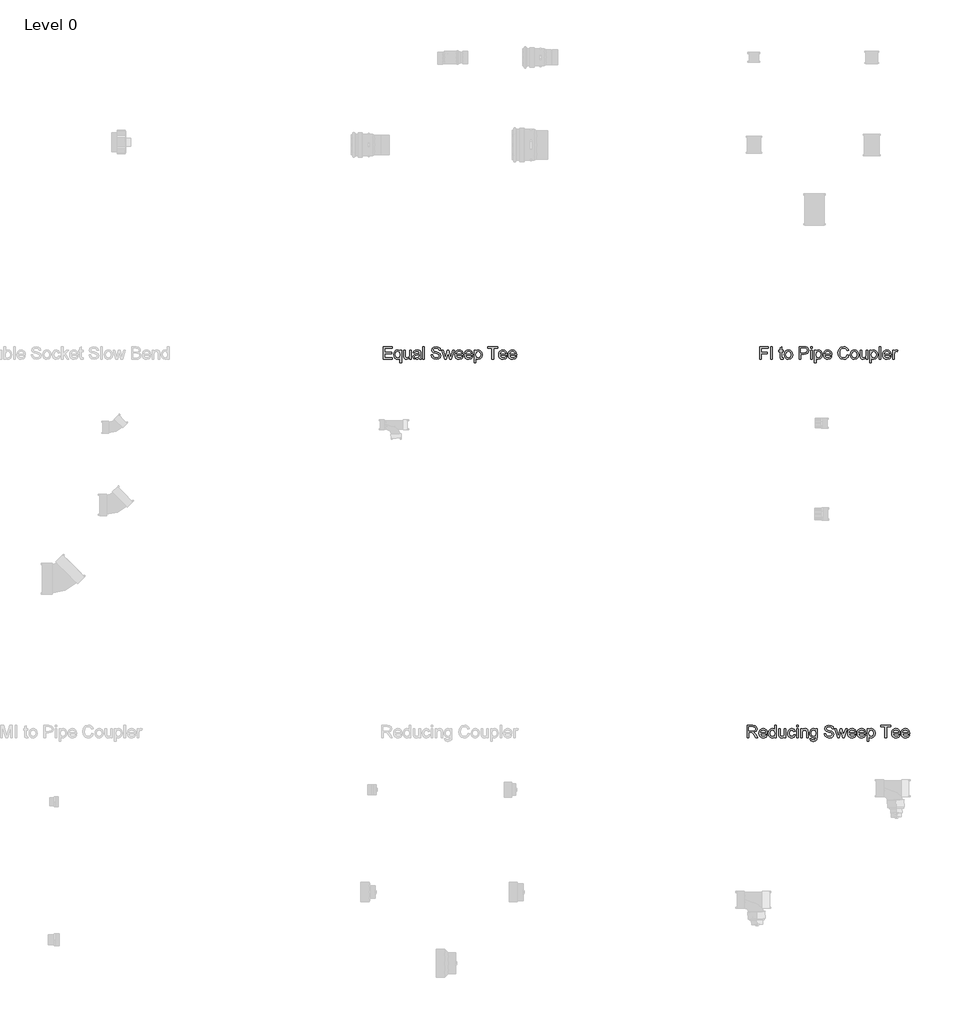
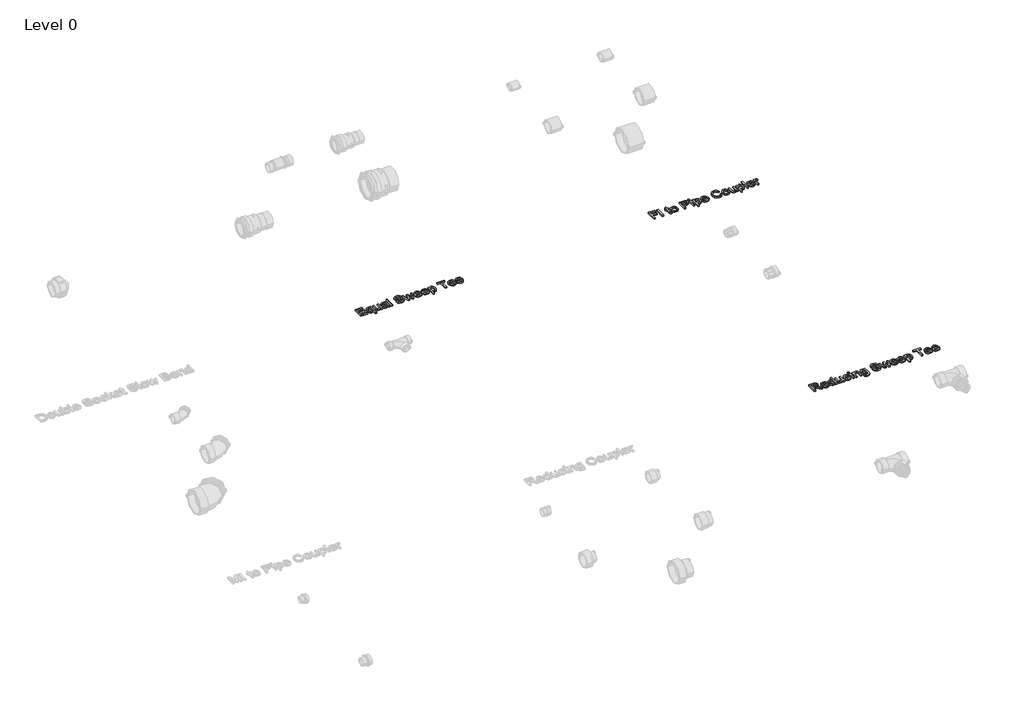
# One storey, part 9 of 10: 3 proxies.
"""IFC4 building model written with IfcOpenShell, lengths in millimetres."""

from ifc_helpers import new_model, si_unit, origin, origin_with_axes, place, context, project, spatial, polyline, outline, extrude, element, save

model = new_model("IFC4")

# Units and contexts
model_context = context("Model", 3, world=origin())
ifc_project = project(units=[si_unit("LENGTHUNIT", "METRE", prefix="MILLI")], contexts=[model_context])

# Site, building, storey
site = spatial("IfcSite", under=ifc_project)
building = spatial("IfcBuilding", under=site)
storey = spatial("IfcBuildingStorey", under=building, Name="Level 0", Elevation=0.0)

# Proxies
placement = place(None, origin())
element("IfcBuildingElementProxy", 1, Name="75mm Arial", ObjectType="75mm Arial", at=placement, inside=storey, context=model_context, shape_type="SweptSolid", body=[
    extrude(outline(polyline([(3810.0921277, 3356.6243175), (3810.0921277, 3430.4704713), (3859.7075123, 3430.4704713), (3859.7075123, 3421.2397021), (3819.3228969, 3421.2397021), (3819.3228969, 3399.3166252), (3853.9382815, 3399.3166252), (3853.9382815, 3390.0858559), (3819.3228969, 3390.0858559), (3819.3228969, 3356.6243175), (3810.0921277, 3356.6243175)])), origin_with_axes(), (0.0, 0.0, 1.0), 10.0),
    extrude(outline(polyline([(3873.5536661, 3356.6243175), (3873.5536661, 3430.4704713), (3882.7844354, 3430.4704713), (3882.7844354, 3356.6243175), (3873.5536661, 3356.6243175)])), origin_with_axes(), (0.0, 0.0, 1.0), 10.0),
    extrude(outline(polyline([(3948.5536661, 3364.3226348), (3949.7075123, 3356.3538848), (3942.8024642, 3355.4704713), (3935.0680892, 3357.0029232), (3931.2099161, 3361.0233559), (3930.0921277, 3371.4981155), (3930.0921277, 3401.6243175), (3923.1690508, 3401.6243175), (3923.1690508, 3410.8550867), (3930.0921277, 3410.8550867), (3930.0921277, 3424.0341732), (3939.3228969, 3429.4608559), (3939.3228969, 3410.8550867), (3948.5536661, 3410.8550867), (3948.5536661, 3401.6243175), (3939.3228969, 3401.6243175), (3939.3228969, 3371.7685482), (3939.8096758, 3367.0089328), (3941.3871998, 3365.3232357), (3944.5332334, 3364.7012405), (3948.5536661, 3364.3226348)])), origin_with_axes(), (0.0, 0.0, 1.0), 10.0),
    extrude(outline(polyline([(3955.4767431, 3383.7397021), (3957.4734378, 3396.8151228), (3963.4635219, 3406.0053271), (3970.8643633, 3410.5080314), (3979.7255411, 3412.0089328), (3989.4228068, 3410.1812586), (3997.1684498, 3404.6982357), (4002.2458236, 3395.9925566), (4003.9382815, 3384.4969136), (4000.9454931, 3368.0726348), (3992.2285459, 3358.7787646), (3979.7255411, 3355.4704713), (3969.911088, 3357.2913848), (3962.1744594, 3362.7541252), (3957.1511721, 3371.6423463), (3955.4767431, 3383.7397021)]), holes=[polyline([(3964.7075123, 3383.7577309), (3968.9803488, 3369.4518415), (3979.7255411, 3364.7012405), (3990.4346758, 3369.4788848), (3994.7075123, 3384.0461925), (3990.4076325, 3398.0275627), (3979.7255411, 3402.7781636), (3968.9803488, 3398.0455915), (3964.7075123, 3383.7577309)])]), origin_with_axes(), (0.0, 0.0, 1.0), 10.0),
    extrude(outline(polyline([(4044.3228969, 3356.6243175), (4044.3228969, 3430.4704713), (4071.6906854, 3430.4704713), (4082.7243392, 3429.7673463), (4091.6936902, 3426.3148223), (4097.5079931, 3419.1753992), (4099.7075123, 3409.1062886), (4098.2223861, 3400.4028631), (4093.7670075, 3393.1507598), (4085.435427, 3388.255928), (4072.321695, 3386.6243175), (4053.5536661, 3386.6243175), (4053.5536661, 3356.6243175), (4044.3228969, 3356.6243175)]), holes=[polyline([(4053.5536661, 3395.8550867), (4072.8625604, 3395.8550867), (4086.4563104, 3399.2445098), (4090.4767431, 3408.7817694), (4088.1059498, 3416.4260002), (4081.8769834, 3420.6086925), (4072.6462142, 3421.2397021), (4053.5536661, 3421.2397021), (4053.5536661, 3395.8550867)])]), origin_with_axes(), (0.0, 0.0, 1.0), 10.0),
    extrude(outline(polyline([(4111.2459738, 3356.6243175), (4111.2459738, 3410.8550867), (4120.4767431, 3410.8550867), (4120.4767431, 3356.6243175), (4111.2459738, 3356.6243175)])), origin_with_axes(), (0.0, 0.0, 1.0), 10.0),
    extrude(outline(polyline([(4111.2459738, 3421.2397021), (4111.2459738, 3430.4704713), (4120.4767431, 3430.4704713), (4120.4767431, 3421.2397021), (4111.2459738, 3421.2397021)])), origin_with_axes(), (0.0, 0.0, 1.0), 10.0),
    extrude(outline(polyline([(4134.3228969, 3335.8550867), (4134.3228969, 3410.8550867), (4143.5536661, 3410.8550867), (4143.5536661, 3401.8046059), (4149.9358777, 3409.4578511), (4158.5536661, 3412.0089328), (4170.2543873, 3408.4392213), (4177.8986181, 3398.3791252), (4180.4767431, 3384.1543655), (4177.5650844, 3369.1994377), (4169.1095556, 3359.0131396), (4157.4358777, 3355.4704713), (4149.4040267, 3357.8412646), (4143.5536661, 3363.8358559), (4143.5536661, 3335.8550867), (4134.3228969, 3335.8550867)]), holes=[polyline([(4143.5536661, 3383.3070098), (4147.5470556, 3369.2445098), (4157.2375604, 3364.7012405), (4167.1263825, 3369.4067694), (4171.2459738, 3383.9921059), (4167.2255411, 3398.0906636), (4157.6161661, 3402.7781636), (4147.8174883, 3397.7931877), (4143.5536661, 3383.3070098)])]), origin_with_axes(), (0.0, 0.0, 1.0), 10.0),
    extrude(outline(polyline([(4228.8301084, 3372.7781636), (4237.8805892, 3371.6243175), (4229.4160459, 3359.7072502), (4213.64982, 3355.4704713), (4202.8189907, 3357.2981456), (4194.4851565, 3362.7811684), (4189.1711541, 3371.5634701), (4187.39982, 3383.2889809), (4189.189183, 3395.4088728), (4194.5572719, 3404.4728752), (4202.7784258, 3410.1249184), (4213.1269834, 3412.0089328), (4223.1532755, 3410.1294256), (4231.164844, 3404.490904), (4236.4179991, 3395.4449304), (4238.1690508, 3383.3430675), (4238.1149642, 3380.8550867), (4196.6305892, 3380.8550867), (4201.9400844, 3368.865904), (4213.8301084, 3364.7012405), (4222.8805892, 3366.6303271), (4228.8301084, 3372.7781636)]), holes=[polyline([(4196.6305892, 3390.0858559), (4228.9382815, 3390.0858559), (4225.2423681, 3398.4512405), (4213.0909258, 3402.7781636), (4201.7237383, 3399.3256396), (4196.6305892, 3390.0858559)])]), origin_with_axes(), (0.0, 0.0, 1.0), 10.0),
    extrude(outline(polyline([(4329.3228969, 3382.8743175), (4338.5536661, 3380.4945098), (4334.2943512, 3369.7380494), (4327.6101565, 3361.8797261), (4318.8301084, 3357.072785), (4308.2832334, 3355.4704713), (4289.0734979, 3360.3202309), (4277.805469, 3374.3647021), (4273.9382815, 3394.1062886), (4278.3102767, 3414.1723944), (4290.7411661, 3427.1802069), (4308.4815508, 3431.6243175), (4318.6024943, 3430.186517), (4326.9701325, 3425.8731155), (4333.3230471, 3418.9500386), (4337.39982, 3409.6832117), (4328.1690508, 3407.4836925), (4320.5969354, 3418.8328511), (4308.1209738, 3422.3935482), (4293.6798681, 3418.4452309), (4285.5218152, 3407.8442694), (4283.1690508, 3394.1243175), (4285.9545075, 3378.2228752), (4294.6263825, 3368.0636203), (4307.3637623, 3364.7012405), (4321.4893633, 3369.2805675), (4329.3228969, 3382.8743175)])), origin_with_axes(), (0.0, 0.0, 1.0), 10.0),
    extrude(outline(polyline([(4347.7844354, 3383.7397021), (4349.7811301, 3396.8151228), (4355.7712142, 3406.0053271), (4363.1720556, 3410.5080314), (4372.0332334, 3412.0089328), (4381.7304991, 3410.1812586), (4389.4761421, 3404.6982357), (4394.5535159, 3395.9925566), (4396.2459738, 3384.4969136), (4393.2531854, 3368.0726348), (4384.5362383, 3358.7787646), (4372.0332334, 3355.4704713), (4362.2187803, 3357.2913848), (4354.4821517, 3362.7541252), (4349.4588645, 3371.6423463), (4347.7844354, 3383.7397021)]), holes=[polyline([(4357.0152046, 3383.7577309), (4361.2880411, 3369.4518415), (4372.0332334, 3364.7012405), (4382.7423681, 3369.4788848), (4387.0152046, 3384.0461925), (4382.7153248, 3398.0275627), (4372.0332334, 3402.7781636), (4361.2880411, 3398.0455915), (4357.0152046, 3383.7577309)])]), origin_with_axes(), (0.0, 0.0, 1.0), 10.0),
    extrude(outline(polyline([(4441.2459738, 3356.6243175), (4441.2459738, 3365.9452309), (4434.0164065, 3358.0891612), (4424.58732, 3355.4704713), (4415.9064306, 3357.3094136), (4409.9208536, 3361.9247982), (4407.1714546, 3368.7216732), (4406.6305892, 3377.303404), (4406.6305892, 3410.8550867), (4415.8613584, 3410.8550867), (4415.8613584, 3381.6483559), (4416.4202527, 3372.2372982), (4420.071094, 3366.7114569), (4426.9490988, 3364.7012405), (4434.6564306, 3366.756529), (4439.7495796, 3372.3544857), (4441.2459738, 3382.6399425), (4441.2459738, 3410.8550867), (4450.4767431, 3410.8550867), (4450.4767431, 3356.6243175), (4441.2459738, 3356.6243175)])), origin_with_axes(), (0.0, 0.0, 1.0), 10.0),
    extrude(outline(polyline([(4463.1690508, 3335.8550867), (4463.1690508, 3410.8550867), (4472.39982, 3410.8550867), (4472.39982, 3401.8046059), (4478.7820315, 3409.4578511), (4487.39982, 3412.0089328), (4499.1005411, 3408.4392213), (4506.7447719, 3398.3791252), (4509.3228969, 3384.1543655), (4506.4112383, 3369.1994377), (4497.9557094, 3359.0131396), (4486.2820315, 3355.4704713), (4478.2501806, 3357.8412646), (4472.39982, 3363.8358559), (4472.39982, 3335.8550867), (4463.1690508, 3335.8550867)]), holes=[polyline([(4472.39982, 3383.3070098), (4476.3932094, 3369.2445098), (4486.0837142, 3364.7012405), (4495.9725363, 3369.4067694), (4500.0921277, 3383.9921059), (4496.071695, 3398.0906636), (4486.46232, 3402.7781636), (4476.6636421, 3397.7931877), (4472.39982, 3383.3070098)])]), origin_with_axes(), (0.0, 0.0, 1.0), 10.0),
    extrude(outline(polyline([(4519.7075123, 3356.6243175), (4519.7075123, 3430.4704713), (4528.9382815, 3430.4704713), (4528.9382815, 3356.6243175), (4519.7075123, 3356.6243175)])), origin_with_axes(), (0.0, 0.0, 1.0), 10.0),
    extrude(outline(polyline([(4580.7531854, 3372.7781636), (4589.8036661, 3371.6243175), (4581.3391229, 3359.7072502), (4565.5728969, 3355.4704713), (4554.7420676, 3357.2981456), (4546.4082334, 3362.7811684), (4541.094231, 3371.5634701), (4539.3228969, 3383.2889809), (4541.1122599, 3395.4088728), (4546.4803488, 3404.4728752), (4554.7015027, 3410.1249184), (4565.0500604, 3412.0089328), (4575.0763524, 3410.1294256), (4583.0879209, 3404.490904), (4588.341076, 3395.4449304), (4590.0921277, 3383.3430675), (4590.0380411, 3380.8550867), (4548.5536661, 3380.8550867), (4553.8631613, 3368.865904), (4565.7531854, 3364.7012405), (4574.8036661, 3366.6303271), (4580.7531854, 3372.7781636)]), holes=[polyline([(4548.5536661, 3390.0858559), (4580.8613584, 3390.0858559), (4577.165445, 3398.4512405), (4565.0140027, 3402.7781636), (4553.6468152, 3399.3256396), (4548.5536661, 3390.0858559)])]), origin_with_axes(), (0.0, 0.0, 1.0), 10.0),
    extrude(outline(polyline([(4599.3228969, 3356.6243175), (4599.3228969, 3410.8550867), (4607.39982, 3410.8550867), (4607.39982, 3402.8322502), (4613.1329931, 3410.2240771), (4618.9022238, 3412.0089328), (4628.1690508, 3409.1603752), (4625.0861181, 3400.8851348), (4618.5957334, 3402.7781636), (4613.3763825, 3400.9572502), (4610.0500604, 3395.9091732), (4608.5536661, 3385.1279232), (4608.5536661, 3356.6243175), (4599.3228969, 3356.6243175)])), origin_with_axes(), (0.0, 0.0, 1.0), 10.0),
])
element("IfcBuildingElementProxy", 2, Name="75mm Arial", ObjectType="75mm Arial", at=placement, inside=storey, context=model_context, shape_type="SweptSolid", body=[
    extrude(outline(polyline([(1570.4767431, 3356.6243175), (1570.4767431, 3430.4704713), (1623.5536661, 3430.4704713), (1623.5536661, 3421.2397021), (1579.7075123, 3421.2397021), (1579.7075123, 3399.3166252), (1621.2459738, 3399.3166252), (1621.2459738, 3390.0858559), (1579.7075123, 3390.0858559), (1579.7075123, 3365.8550867), (1624.7075123, 3365.8550867), (1624.7075123, 3356.6243175), (1570.4767431, 3356.6243175)])), origin_with_axes(), (0.0, 0.0, 1.0), 10.0),
    extrude(outline(polyline([(1670.8613584, 3335.8550867), (1670.8613584, 3364.0161444), (1665.0019834, 3357.9043655), (1656.9971758, 3355.4704713), (1648.2216349, 3357.392797), (1640.7531854, 3363.1597742), (1635.6420075, 3372.2756095), (1633.9382815, 3384.2445098), (1636.6426084, 3398.865904), (1644.4851565, 3408.6735963), (1655.7531854, 3412.0089328), (1664.3349161, 3409.4217934), (1670.8613584, 3401.6603752), (1670.8613584, 3410.8550867), (1680.0921277, 3410.8550867), (1680.0921277, 3335.8550867), (1670.8613584, 3335.8550867)]), holes=[polyline([(1643.1690508, 3383.7397021), (1647.3246998, 3369.4608559), (1657.2856373, 3364.7012405), (1666.8499402, 3369.2264809), (1670.8613584, 3383.0005194), (1666.633594, 3397.8112165), (1656.7087142, 3402.7781636), (1647.1083536, 3398.1537646), (1643.1690508, 3383.7397021)])]), origin_with_axes(), (0.0, 0.0, 1.0), 10.0),
    extrude(outline(polyline([(1728.5536661, 3356.6243175), (1728.5536661, 3365.9452309), (1721.3240988, 3358.0891612), (1711.8950123, 3355.4704713), (1703.2141229, 3357.3094136), (1697.2285459, 3361.9247982), (1694.4791469, 3368.7216732), (1693.9382815, 3377.303404), (1693.9382815, 3410.8550867), (1703.1690508, 3410.8550867), (1703.1690508, 3381.6483559), (1703.727945, 3372.2372982), (1707.3787863, 3366.7114569), (1714.2567911, 3364.7012405), (1721.9641229, 3366.756529), (1727.0572719, 3372.3544857), (1728.5536661, 3382.6399425), (1728.5536661, 3410.8550867), (1737.7844354, 3410.8550867), (1737.7844354, 3356.6243175), (1728.5536661, 3356.6243175)])), origin_with_axes(), (0.0, 0.0, 1.0), 10.0),
    extrude(outline(polyline([(1785.0921277, 3363.5473944), (1776.1408056, 3357.2913848), (1766.2519834, 3355.4704713), (1752.8475363, 3359.8514809), (1748.1690508, 3371.0473944), (1749.9358777, 3378.3490771), (1754.5783056, 3383.6495578), (1761.0416469, 3386.678404), (1769.0284258, 3388.0666252), (1785.0380411, 3391.2397021), (1785.0921277, 3393.2949905), (1782.5500604, 3400.1098944), (1772.3457334, 3402.7781636), (1763.0067911, 3401.0023223), (1758.5536661, 3394.7012405), (1749.3228969, 3395.8550867), (1753.3162863, 3404.8695098), (1761.3571517, 3410.1519617), (1773.5356373, 3412.0089328), (1784.7225363, 3410.3683078), (1791.0416469, 3406.2487165), (1793.8721758, 3399.9836925), (1794.3228969, 3391.9067694), (1794.3228969, 3380.4223944), (1794.7916469, 3364.3857357), (1796.6305892, 3356.6243175), (1787.39982, 3356.6243175), (1785.0921277, 3363.5473944)]), holes=[polyline([(1785.0921277, 3382.0089328), (1770.2003008, 3379.178404), (1762.258594, 3377.6820098), (1758.6618392, 3375.2481155), (1757.39982, 3371.6964328), (1760.149219, 3366.7024425), (1768.2171277, 3364.7012405), (1777.55607, 3366.9097742), (1783.5777046, 3372.2553271), (1785.0380411, 3379.3947502), (1785.0921277, 3382.0089328)])]), origin_with_axes(), (0.0, 0.0, 1.0), 10.0),
    extrude(outline(polyline([(1807.0152046, 3356.6243175), (1807.0152046, 3430.4704713), (1816.2459738, 3430.4704713), (1816.2459738, 3356.6243175), (1807.0152046, 3356.6243175)])), origin_with_axes(), (0.0, 0.0, 1.0), 10.0),
    extrude(outline(polyline([(1856.6305892, 3382.0089328), (1865.8613584, 3382.0089328), (1868.8361181, 3372.7691492), (1876.1017431, 3366.927803), (1887.1714546, 3364.7012405), (1896.8168873, 3366.3869377), (1903.0458536, 3371.0203511), (1905.0921277, 3377.2132598), (1903.5596758, 3382.9734761), (1897.2856373, 3387.1651828), (1883.8451325, 3390.6898223), (1869.3769834, 3395.2421059), (1861.5254209, 3402.1110963), (1858.9382815, 3411.287779), (1862.1384017, 3421.7354953), (1871.4863584, 3429.1092934), (1885.1702527, 3431.6243175), (1899.7736181, 3428.9921059), (1909.509195, 3421.2577309), (1913.1690508, 3409.7012405), (1903.9382815, 3409.7012405), (1898.7099161, 3419.1844136), (1885.5308296, 3422.3935482), (1872.3156854, 3419.2204713), (1868.1690508, 3411.5582117), (1871.1077527, 3405.1579713), (1886.1798681, 3400.0017213), (1902.5140027, 3395.3683078), (1911.4472959, 3387.8863367), (1914.3228969, 3377.4476348), (1911.0146036, 3366.4049665), (1901.4953729, 3358.3460723), (1887.5320315, 3355.4704713), (1871.0446517, 3358.5714328), (1860.6149642, 3367.9103752), (1856.6305892, 3382.0089328)])), origin_with_axes(), (0.0, 0.0, 1.0), 10.0),
    extrude(outline(polyline([(1936.0115988, 3356.6243175), (1919.5152046, 3410.8550867), (1929.1065508, 3410.8550867), (1938.4635219, 3379.2144617), (1941.2579931, 3367.9103752), (1943.5476565, 3378.7997982), (1950.99357, 3410.8550867), (1961.9911661, 3410.8550867), (1969.4010219, 3378.8899425), (1971.4382815, 3369.0281636), (1974.3589546, 3379.4308078), (1983.7339546, 3410.8550867), (1993.3613584, 3410.8550867), (1976.7387623, 3356.6243175), (1965.5789065, 3356.6243175), (1958.49357, 3388.4272021), (1956.4382815, 3398.3430675), (1947.2976565, 3356.6243175), (1936.0115988, 3356.6243175)])), origin_with_axes(), (0.0, 0.0, 1.0), 10.0),
    extrude(outline(polyline([(2037.6762623, 3372.7781636), (2046.7267431, 3371.6243175), (2038.2621998, 3359.7072502), (2022.4959738, 3355.4704713), (2011.6651445, 3357.2981456), (2003.3313104, 3362.7811684), (1998.017308, 3371.5634701), (1996.2459738, 3383.2889809), (1998.0353368, 3395.4088728), (2003.4034258, 3404.4728752), (2011.6245796, 3410.1249184), (2021.9731373, 3412.0089328), (2031.9994294, 3410.1294256), (2040.0109979, 3404.490904), (2045.2641529, 3395.4449304), (2047.0152046, 3383.3430675), (2046.9611181, 3380.8550867), (2005.4767431, 3380.8550867), (2010.7862383, 3368.865904), (2022.6762623, 3364.7012405), (2031.7267431, 3366.6303271), (2037.6762623, 3372.7781636)]), holes=[polyline([(2005.4767431, 3390.0858559), (2037.7844354, 3390.0858559), (2034.0885219, 3398.4512405), (2021.9370796, 3402.7781636), (2010.5698921, 3399.3256396), (2005.4767431, 3390.0858559)])]), origin_with_axes(), (0.0, 0.0, 1.0), 10.0),
    extrude(outline(polyline([(2094.2147238, 3372.7781636), (2103.2652046, 3371.6243175), (2094.8006613, 3359.7072502), (2079.0344354, 3355.4704713), (2068.203606, 3357.2981456), (2059.8697719, 3362.7811684), (2054.5557695, 3371.5634701), (2052.7844354, 3383.2889809), (2054.5737983, 3395.4088728), (2059.9418873, 3404.4728752), (2068.1630411, 3410.1249184), (2078.5115988, 3412.0089328), (2088.5378909, 3410.1294256), (2096.5494594, 3404.490904), (2101.8026145, 3395.4449304), (2103.5536661, 3383.3430675), (2103.4995796, 3380.8550867), (2062.0152046, 3380.8550867), (2067.3246998, 3368.865904), (2079.2147238, 3364.7012405), (2088.2652046, 3366.6303271), (2094.2147238, 3372.7781636)]), holes=[polyline([(2062.0152046, 3390.0858559), (2094.3228969, 3390.0858559), (2090.6269834, 3398.4512405), (2078.4755411, 3402.7781636), (2067.1083536, 3399.3256396), (2062.0152046, 3390.0858559)])]), origin_with_axes(), (0.0, 0.0, 1.0), 10.0),
    extrude(outline(polyline([(2112.7844354, 3335.8550867), (2112.7844354, 3410.8550867), (2122.0152046, 3410.8550867), (2122.0152046, 3401.8046059), (2128.3974161, 3409.4578511), (2137.0152046, 3412.0089328), (2148.7159258, 3408.4392213), (2156.3601565, 3398.3791252), (2158.9382815, 3384.1543655), (2156.0266229, 3369.1994377), (2147.571094, 3359.0131396), (2135.8974161, 3355.4704713), (2127.8655652, 3357.8412646), (2122.0152046, 3363.8358559), (2122.0152046, 3335.8550867), (2112.7844354, 3335.8550867)]), holes=[polyline([(2122.0152046, 3383.3070098), (2126.008594, 3369.2445098), (2135.6990988, 3364.7012405), (2145.5879209, 3369.4067694), (2149.7075123, 3383.9921059), (2145.6870796, 3398.0906636), (2136.0777046, 3402.7781636), (2126.2790267, 3397.7931877), (2122.0152046, 3383.3070098)])]), origin_with_axes(), (0.0, 0.0, 1.0), 10.0),
    extrude(outline(polyline([(2217.7844354, 3356.6243175), (2217.7844354, 3421.2397021), (2193.5536661, 3421.2397021), (2193.5536661, 3430.4704713), (2251.2459738, 3430.4704713), (2251.2459738, 3421.2397021), (2227.0152046, 3421.2397021), (2227.0152046, 3356.6243175), (2217.7844354, 3356.6243175)])), origin_with_axes(), (0.0, 0.0, 1.0), 10.0),
    extrude(outline(polyline([(2298.4454931, 3372.7781636), (2307.4959738, 3371.6243175), (2299.0314306, 3359.7072502), (2283.2652046, 3355.4704713), (2272.4343753, 3357.2981456), (2264.1005411, 3362.7811684), (2258.7865387, 3371.5634701), (2257.0152046, 3383.2889809), (2258.8045676, 3395.4088728), (2264.1726565, 3404.4728752), (2272.3938104, 3410.1249184), (2282.7423681, 3412.0089328), (2292.7686601, 3410.1294256), (2300.7802286, 3404.490904), (2306.0333837, 3395.4449304), (2307.7844354, 3383.3430675), (2307.7303488, 3380.8550867), (2266.2459738, 3380.8550867), (2271.555469, 3368.865904), (2283.4454931, 3364.7012405), (2292.4959738, 3366.6303271), (2298.4454931, 3372.7781636)]), holes=[polyline([(2266.2459738, 3390.0858559), (2298.5536661, 3390.0858559), (2294.8577527, 3398.4512405), (2282.7063104, 3402.7781636), (2271.3391229, 3399.3256396), (2266.2459738, 3390.0858559)])]), origin_with_axes(), (0.0, 0.0, 1.0), 10.0),
    extrude(outline(polyline([(2354.9839546, 3372.7781636), (2364.0344354, 3371.6243175), (2355.5698921, 3359.7072502), (2339.8036661, 3355.4704713), (2328.9728368, 3357.2981456), (2320.6390027, 3362.7811684), (2315.3250003, 3371.5634701), (2313.5536661, 3383.2889809), (2315.3430291, 3395.4088728), (2320.7111181, 3404.4728752), (2328.9322719, 3410.1249184), (2339.2808296, 3412.0089328), (2349.3071217, 3410.1294256), (2357.3186902, 3404.490904), (2362.5718452, 3395.4449304), (2364.3228969, 3383.3430675), (2364.2688104, 3380.8550867), (2322.7844354, 3380.8550867), (2328.0939306, 3368.865904), (2339.9839546, 3364.7012405), (2349.0344354, 3366.6303271), (2354.9839546, 3372.7781636)]), holes=[polyline([(2322.7844354, 3390.0858559), (2355.0921277, 3390.0858559), (2351.3962142, 3398.4512405), (2339.2447719, 3402.7781636), (2327.8775844, 3399.3256396), (2322.7844354, 3390.0858559)])]), origin_with_axes(), (0.0, 0.0, 1.0), 10.0),
])
element("IfcBuildingElementProxy", 3, Name="75mm Arial", ObjectType="75mm Arial", at=placement, inside=storey, context=model_context, shape_type="SweptSolid", body=[
    extrude(outline(polyline([(3735.0921277, 1106.6243175), (3735.0921277, 1180.4704713), (3766.9130411, 1180.4704713), (3781.6876806, 1178.4782838), (3789.7646036, 1171.429005), (3792.7844354, 1160.2601348), (3787.7814306, 1146.9548463), (3772.321695, 1140.0858559), (3777.5680892, 1136.1375386), (3785.0500604, 1126.6363367), (3797.3637623, 1106.6243175), (3786.6365988, 1106.6243175), (3777.0272238, 1121.9308078), (3770.0861181, 1132.0630194), (3765.2093152, 1136.849678), (3760.8192911, 1138.6074905), (3755.4647238, 1138.9320098), (3744.3228969, 1138.9320098), (3744.3228969, 1106.6243175), (3735.0921277, 1106.6243175)]), holes=[polyline([(3744.3228969, 1148.162779), (3764.9839546, 1148.162779), (3775.5218152, 1149.4698703), (3781.5073921, 1153.6525627), (3783.5536661, 1159.9175867), (3779.6504209, 1168.0485963), (3767.3096758, 1171.2397021), (3744.3228969, 1171.2397021), (3744.3228969, 1148.162779)])]), origin_with_axes(), (0.0, 0.0, 1.0), 10.0),
    extrude(outline(polyline([(3845.7531854, 1122.7781636), (3854.8036661, 1121.6243175), (3846.3391229, 1109.7072502), (3830.5728969, 1105.4704713), (3819.7420676, 1107.2981456), (3811.4082334, 1112.7811684), (3806.094231, 1121.5634701), (3804.3228969, 1133.2889809), (3806.1122599, 1145.4088728), (3811.4803488, 1154.4728752), (3819.7015027, 1160.1249184), (3830.0500604, 1162.0089328), (3840.0763524, 1160.1294256), (3848.0879209, 1154.490904), (3853.341076, 1145.4449304), (3855.0921277, 1133.3430675), (3855.0380411, 1130.8550867), (3813.5536661, 1130.8550867), (3818.8631613, 1118.865904), (3830.7531854, 1114.7012405), (3839.8036661, 1116.6303271), (3845.7531854, 1122.7781636)]), holes=[polyline([(3813.5536661, 1140.0858559), (3845.8613584, 1140.0858559), (3842.165445, 1148.4512405), (3830.0140027, 1152.7781636), (3818.6468152, 1149.3256396), (3813.5536661, 1140.0858559)])]), origin_with_axes(), (0.0, 0.0, 1.0), 10.0),
    extrude(outline(polyline([(3897.7844354, 1106.6243175), (3897.7844354, 1115.3322502), (3891.6771637, 1107.935916), (3883.2351565, 1105.4704713), (3871.8048681, 1109.0401828), (3863.727945, 1119.0011203), (3860.8613584, 1133.6856155), (3863.5025844, 1148.3791252), (3871.4172479, 1158.4933078), (3883.1990988, 1162.0089328), (3891.7087142, 1159.4939088), (3897.7844354, 1152.9584521), (3897.7844354, 1180.4704713), (3907.0152046, 1180.4704713), (3907.0152046, 1106.6243175), (3897.7844354, 1106.6243175)]), holes=[polyline([(3870.0921277, 1133.7216732), (3874.2567911, 1119.4338127), (3884.0825123, 1114.7012405), (3893.7910459, 1119.2174665), (3897.7844354, 1133.0185482), (3893.7189306, 1148.0005194), (3883.7039065, 1152.7781636), (3873.9863584, 1148.1898223), (3870.0921277, 1133.7216732)])]), origin_with_axes(), (0.0, 0.0, 1.0), 10.0),
    extrude(outline(polyline([(3955.4767431, 1106.6243175), (3955.4767431, 1115.9452309), (3948.2471758, 1108.0891612), (3938.8180892, 1105.4704713), (3930.1371998, 1107.3094136), (3924.1516229, 1111.9247982), (3921.4022238, 1118.7216732), (3920.8613584, 1127.303404), (3920.8613584, 1160.8550867), (3930.0921277, 1160.8550867), (3930.0921277, 1131.6483559), (3930.6510219, 1122.2372982), (3934.3018633, 1116.7114569), (3941.1798681, 1114.7012405), (3948.8871998, 1116.756529), (3953.9803488, 1122.3544857), (3955.4767431, 1132.6399425), (3955.4767431, 1160.8550867), (3964.7075123, 1160.8550867), (3964.7075123, 1106.6243175), (3955.4767431, 1106.6243175)])), origin_with_axes(), (0.0, 0.0, 1.0), 10.0),
    extrude(outline(polyline([(4012.0152046, 1126.2397021), (4021.2459738, 1125.0858559), (4013.8361181, 1110.6717934), (3999.196695, 1105.4704713), (3989.3777346, 1107.284624), (3981.6996998, 1112.7270819), (3976.7440207, 1121.5589629), (3975.0921277, 1133.5413848), (3977.9136421, 1148.8749184), (3986.5134017, 1158.7276828), (3999.0704931, 1162.0089328), (4013.1059498, 1157.5017213), (4020.0921277, 1144.7012405), (4010.8613584, 1143.5473944), (4006.5795075, 1150.4614569), (3999.1426084, 1152.7781636), (3988.4424883, 1148.2168655), (3984.3228969, 1133.7937886), (3988.352344, 1119.2354953), (3998.8902046, 1114.7012405), (4007.5891229, 1117.5317694), (4012.0152046, 1126.2397021)])), origin_with_axes(), (0.0, 0.0, 1.0), 10.0),
    extrude(outline(polyline([(4029.3228969, 1106.6243175), (4029.3228969, 1160.8550867), (4038.5536661, 1160.8550867), (4038.5536661, 1106.6243175), (4029.3228969, 1106.6243175)])), origin_with_axes(), (0.0, 0.0, 1.0), 10.0),
    extrude(outline(polyline([(4029.3228969, 1171.2397021), (4029.3228969, 1180.4704713), (4038.5536661, 1180.4704713), (4038.5536661, 1171.2397021), (4029.3228969, 1171.2397021)])), origin_with_axes(), (0.0, 0.0, 1.0), 10.0),
    extrude(outline(polyline([(4052.39982, 1106.6243175), (4052.39982, 1160.8550867), (4061.6305892, 1160.8550867), (4061.6305892, 1153.2829713), (4068.6888825, 1159.8274425), (4078.3253008, 1162.0089328), (4087.0422479, 1160.2511203), (4092.9917671, 1155.6357357), (4095.759195, 1148.8478752), (4096.2459738, 1139.9235963), (4096.2459738, 1106.6243175), (4087.0152046, 1106.6243175), (4087.0152046, 1138.6796059), (4085.9515027, 1146.8466732), (4082.1924883, 1151.1645819), (4075.8553488, 1152.7781636), (4065.8403248, 1149.1543655), (4061.6305892, 1135.3983559), (4061.6305892, 1106.6243175), (4052.39982, 1106.6243175)])), origin_with_axes(), (0.0, 0.0, 1.0), 10.0),
    extrude(outline(polyline([(4106.6305892, 1102.0089328), (4115.8613584, 1100.8550867), (4118.8541469, 1095.9872982), (4127.8144834, 1093.9320098), (4137.2615988, 1096.2577309), (4141.7688104, 1102.7841732), (4142.39982, 1113.5473944), (4135.9004209, 1108.3550867), (4127.9767431, 1106.6243175), (4118.4597659, 1108.639041), (4111.3631613, 1114.6832117), (4106.9483476, 1123.5443896), (4105.4767431, 1134.0101348), (4108.117969, 1148.3160242), (4115.7621998, 1158.4392213), (4127.5260219, 1162.0089328), (4135.7606974, 1159.9897021), (4142.39982, 1153.9320098), (4142.39982, 1160.8550867), (4151.6305892, 1160.8550867), (4151.6305892, 1114.0341732), (4149.1065508, 1096.1044857), (4141.1107575, 1087.7661444), (4127.634195, 1084.7012405), (4112.2826325, 1089.0191492), (4107.9444414, 1094.4255494), (4106.6305892, 1102.0089328)]), holes=[polyline([(4114.7075123, 1134.6411444), (4118.6468152, 1120.3532838), (4128.5356373, 1115.8550867), (4138.4064306, 1120.3262405), (4142.39982, 1134.3707117), (4138.2892431, 1148.1357357), (4128.3914065, 1152.7781636), (4118.7009017, 1148.2078511), (4114.7075123, 1134.6411444)])]), origin_with_axes(), (0.0, 0.0, 1.0), 10.0),
    extrude(outline(polyline([(4192.0152046, 1132.0089328), (4201.2459738, 1132.0089328), (4204.2207334, 1122.7691492), (4211.4863584, 1116.927803), (4222.55607, 1114.7012405), (4232.2015027, 1116.3869377), (4238.430469, 1121.0203511), (4240.4767431, 1127.2132598), (4238.9442911, 1132.9734761), (4232.6702527, 1137.1651828), (4219.2297479, 1140.6898223), (4204.7615988, 1145.2421059), (4196.9100363, 1152.1110963), (4194.3228969, 1161.287779), (4197.5230171, 1171.7354953), (4206.8709738, 1179.1092934), (4220.5548681, 1181.6243175), (4235.1582334, 1178.9921059), (4244.8938104, 1171.2577309), (4248.5536661, 1159.7012405), (4239.3228969, 1159.7012405), (4234.0945315, 1169.1844136), (4220.915445, 1172.3935482), (4207.7003008, 1169.2204713), (4203.5536661, 1161.5582117), (4206.4923681, 1155.1579713), (4221.5644834, 1150.0017213), (4237.8986181, 1145.3683078), (4246.8319113, 1137.8863367), (4249.7075123, 1127.4476348), (4246.399219, 1116.4049665), (4236.8799883, 1108.3460723), (4222.9166469, 1105.4704713), (4206.4292671, 1108.5714328), (4195.9995796, 1117.9103752), (4192.0152046, 1132.0089328)])), origin_with_axes(), (0.0, 0.0, 1.0), 10.0),
    extrude(outline(polyline([(4271.3962142, 1106.6243175), (4254.89982, 1160.8550867), (4264.4911661, 1160.8550867), (4273.8481373, 1129.2144617), (4276.6426084, 1117.9103752), (4278.9322719, 1128.7997982), (4286.3781854, 1160.8550867), (4297.3757815, 1160.8550867), (4304.7856373, 1128.8899425), (4306.8228969, 1119.0281636), (4309.74357, 1129.4308078), (4319.11857, 1160.8550867), (4328.7459738, 1160.8550867), (4312.1233777, 1106.6243175), (4300.9635219, 1106.6243175), (4293.8781854, 1138.4272021), (4291.8228969, 1148.3430675), (4282.6822719, 1106.6243175), (4271.3962142, 1106.6243175)])), origin_with_axes(), (0.0, 0.0, 1.0), 10.0),
    extrude(outline(polyline([(4373.0608777, 1122.7781636), (4382.1113584, 1121.6243175), (4373.6468152, 1109.7072502), (4357.8805892, 1105.4704713), (4347.0497599, 1107.2981456), (4338.7159258, 1112.7811684), (4333.4019233, 1121.5634701), (4331.6305892, 1133.2889809), (4333.4199522, 1145.4088728), (4338.7880411, 1154.4728752), (4347.009195, 1160.1249184), (4357.3577527, 1162.0089328), (4367.3840447, 1160.1294256), (4375.3956133, 1154.490904), (4380.6487683, 1145.4449304), (4382.39982, 1133.3430675), (4382.3457334, 1130.8550867), (4340.8613584, 1130.8550867), (4346.1708536, 1118.865904), (4358.0608777, 1114.7012405), (4367.1113584, 1116.6303271), (4373.0608777, 1122.7781636)]), holes=[polyline([(4340.8613584, 1140.0858559), (4373.1690508, 1140.0858559), (4369.4731373, 1148.4512405), (4357.321695, 1152.7781636), (4345.9545075, 1149.3256396), (4340.8613584, 1140.0858559)])]), origin_with_axes(), (0.0, 0.0, 1.0), 10.0),
    extrude(outline(polyline([(4429.5993392, 1122.7781636), (4438.64982, 1121.6243175), (4430.1852767, 1109.7072502), (4414.4190508, 1105.4704713), (4403.5882214, 1107.2981456), (4395.2543873, 1112.7811684), (4389.9403849, 1121.5634701), (4388.1690508, 1133.2889809), (4389.9584137, 1145.4088728), (4395.3265027, 1154.4728752), (4403.5476565, 1160.1249184), (4413.8962142, 1162.0089328), (4423.9225063, 1160.1294256), (4431.9340748, 1154.490904), (4437.1872298, 1145.4449304), (4438.9382815, 1133.3430675), (4438.884195, 1130.8550867), (4397.39982, 1130.8550867), (4402.7093152, 1118.865904), (4414.5993392, 1114.7012405), (4423.64982, 1116.6303271), (4429.5993392, 1122.7781636)]), holes=[polyline([(4397.39982, 1140.0858559), (4429.7075123, 1140.0858559), (4426.0115988, 1148.4512405), (4413.8601565, 1152.7781636), (4402.492969, 1149.3256396), (4397.39982, 1140.0858559)])]), origin_with_axes(), (0.0, 0.0, 1.0), 10.0),
    extrude(outline(polyline([(4448.1690508, 1085.8550867), (4448.1690508, 1160.8550867), (4457.39982, 1160.8550867), (4457.39982, 1151.8046059), (4463.7820315, 1159.4578511), (4472.39982, 1162.0089328), (4484.1005411, 1158.4392213), (4491.7447719, 1148.3791252), (4494.3228969, 1134.1543655), (4491.4112383, 1119.1994377), (4482.9557094, 1109.0131396), (4471.2820315, 1105.4704713), (4463.2501806, 1107.8412646), (4457.39982, 1113.8358559), (4457.39982, 1085.8550867), (4448.1690508, 1085.8550867)]), holes=[polyline([(4457.39982, 1133.3070098), (4461.3932094, 1119.2445098), (4471.0837142, 1114.7012405), (4480.9725363, 1119.4067694), (4485.0921277, 1133.9921059), (4481.071695, 1148.0906636), (4471.46232, 1152.7781636), (4461.6636421, 1147.7931877), (4457.39982, 1133.3070098)])]), origin_with_axes(), (0.0, 0.0, 1.0), 10.0),
    extrude(outline(polyline([(4553.1690508, 1106.6243175), (4553.1690508, 1171.2397021), (4528.9382815, 1171.2397021), (4528.9382815, 1180.4704713), (4586.6305892, 1180.4704713), (4586.6305892, 1171.2397021), (4562.39982, 1171.2397021), (4562.39982, 1106.6243175), (4553.1690508, 1106.6243175)])), origin_with_axes(), (0.0, 0.0, 1.0), 10.0),
    extrude(outline(polyline([(4633.8301084, 1122.7781636), (4642.8805892, 1121.6243175), (4634.4160459, 1109.7072502), (4618.64982, 1105.4704713), (4607.8189907, 1107.2981456), (4599.4851565, 1112.7811684), (4594.1711541, 1121.5634701), (4592.39982, 1133.2889809), (4594.189183, 1145.4088728), (4599.5572719, 1154.4728752), (4607.7784258, 1160.1249184), (4618.1269834, 1162.0089328), (4628.1532755, 1160.1294256), (4636.164844, 1154.490904), (4641.4179991, 1145.4449304), (4643.1690508, 1133.3430675), (4643.1149642, 1130.8550867), (4601.6305892, 1130.8550867), (4606.9400844, 1118.865904), (4618.8301084, 1114.7012405), (4627.8805892, 1116.6303271), (4633.8301084, 1122.7781636)]), holes=[polyline([(4601.6305892, 1140.0858559), (4633.9382815, 1140.0858559), (4630.2423681, 1148.4512405), (4618.0909258, 1152.7781636), (4606.7237383, 1149.3256396), (4601.6305892, 1140.0858559)])]), origin_with_axes(), (0.0, 0.0, 1.0), 10.0),
    extrude(outline(polyline([(4690.36857, 1122.7781636), (4699.4190508, 1121.6243175), (4690.9545075, 1109.7072502), (4675.1882815, 1105.4704713), (4664.3574522, 1107.2981456), (4656.0236181, 1112.7811684), (4650.7096157, 1121.5634701), (4648.9382815, 1133.2889809), (4650.7276445, 1145.4088728), (4656.0957334, 1154.4728752), (4664.3168873, 1160.1249184), (4674.665445, 1162.0089328), (4684.6917371, 1160.1294256), (4692.7033056, 1154.490904), (4697.9564606, 1145.4449304), (4699.7075123, 1133.3430675), (4699.6534258, 1130.8550867), (4658.1690508, 1130.8550867), (4663.4785459, 1118.865904), (4675.36857, 1114.7012405), (4684.4190508, 1116.6303271), (4690.36857, 1122.7781636)]), holes=[polyline([(4658.1690508, 1140.0858559), (4690.4767431, 1140.0858559), (4686.7808296, 1148.4512405), (4674.6293873, 1152.7781636), (4663.2621998, 1149.3256396), (4658.1690508, 1140.0858559)])]), origin_with_axes(), (0.0, 0.0, 1.0), 10.0),
])

save(model, "model.ifc")
